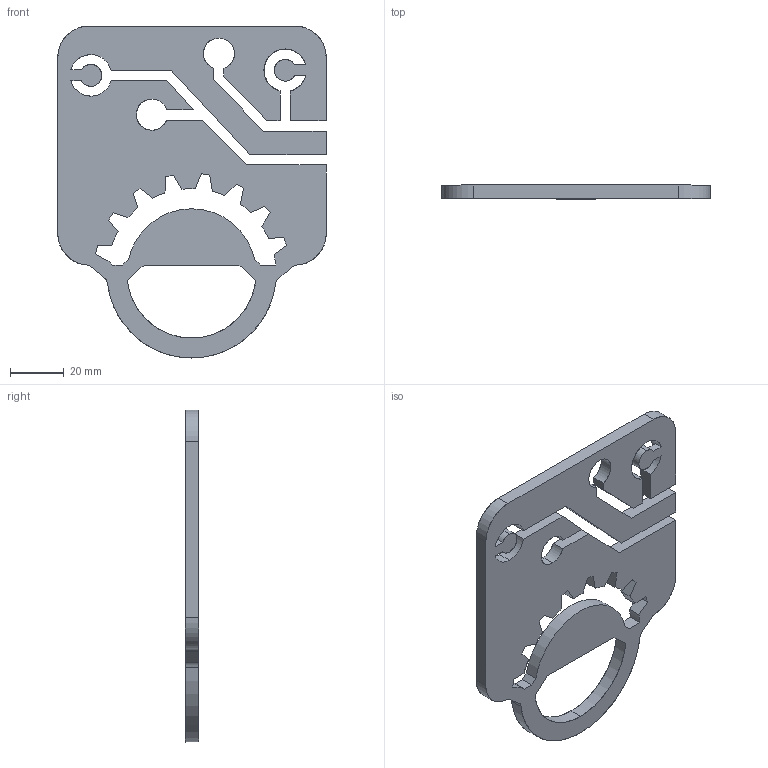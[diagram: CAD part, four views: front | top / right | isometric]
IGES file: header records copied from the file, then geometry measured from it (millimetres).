
Start section: SolidWorks IGES file using analytic representation for surfaces
Global section: file name: C:\Users\Alireza\Desktop\IKAD\sanat bazar logo\sanatbazar.IGS; native system: SolidWorks 2015; preprocessor: SolidWorks 2015; author: Alireza; date: 160611.163702; units: millimetre
Bounding box: 99.91 x 5 x 123.61 mm (x, y, z)
Surface area: 21713.2 mm2 (no closed solid volume)
Topology: 0 solids, 0 shells, 100 faces, 1148 edges, 1148 vertices
Faces by surface type: bspline 67, revolution 33
